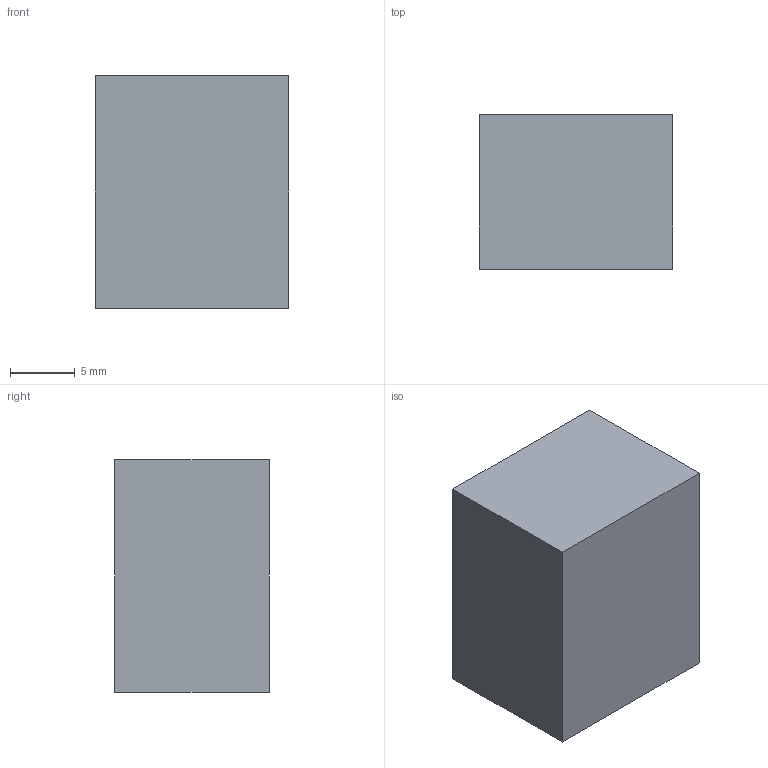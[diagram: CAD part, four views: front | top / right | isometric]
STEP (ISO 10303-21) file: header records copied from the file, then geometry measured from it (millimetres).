
FILE_DESCRIPTION(('Open CASCADE Model'),'2;1');
FILE_NAME('Open CASCADE Shape Model','2026-10-04T02:31:38',('Author'),( 'Open CASCADE'),'Open CASCADE STEP processor 8.0','Open CASCADE 8.0' ,'Unknown');
FILE_SCHEMA(('AUTOMOTIVE_DESIGN { 1 0 10303 214 1 1 1 1 }'));
Length unit declared in the file: millimetre
Products named in the file (1): Open CASCADE STEP translator 8.0 133
Bounding box: 15 x 12 x 18 mm (x, y, z)
Volume: 3240 mm3; surface area: 1332 mm2
Topology: 1 solids, 1 shells, 6 faces, 12 edges, 8 vertices
Faces by surface type: plane 6
Entity records: 322 total; most frequent: CARTESIAN_POINT 51, DIRECTION 50, LINE 36, VECTOR 36, ORIENTED_EDGE 24, PCURVE 24, DEFINITIONAL_REPRESENTATION 24, EDGE_CURVE 12
